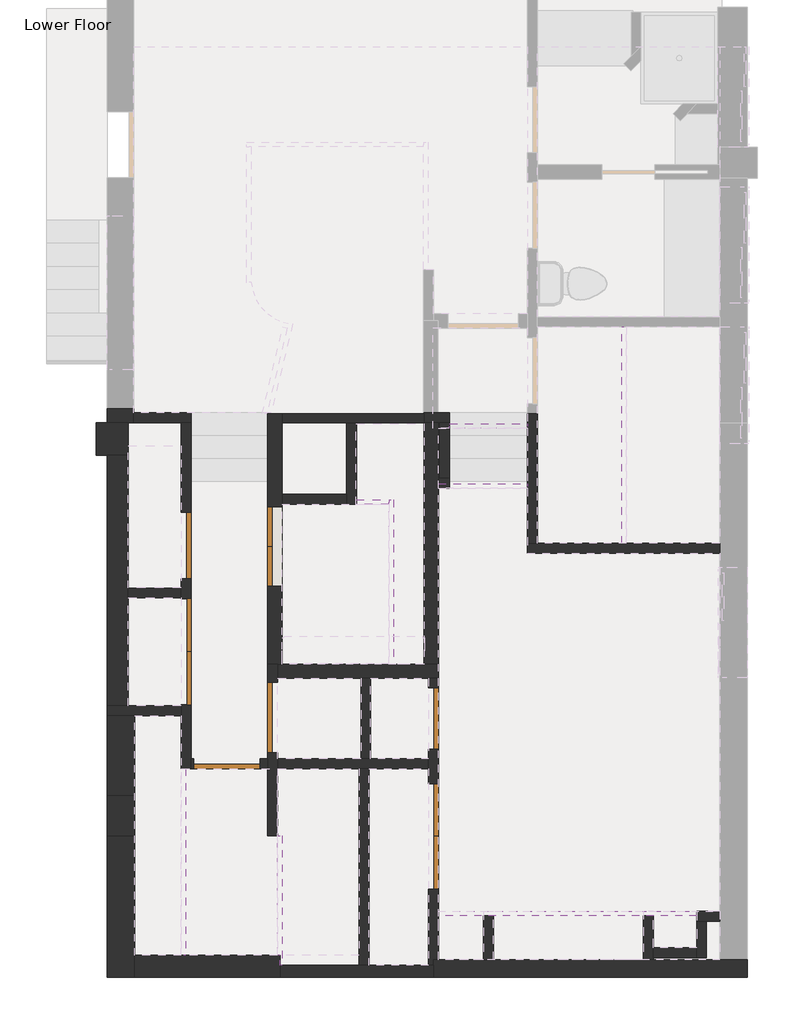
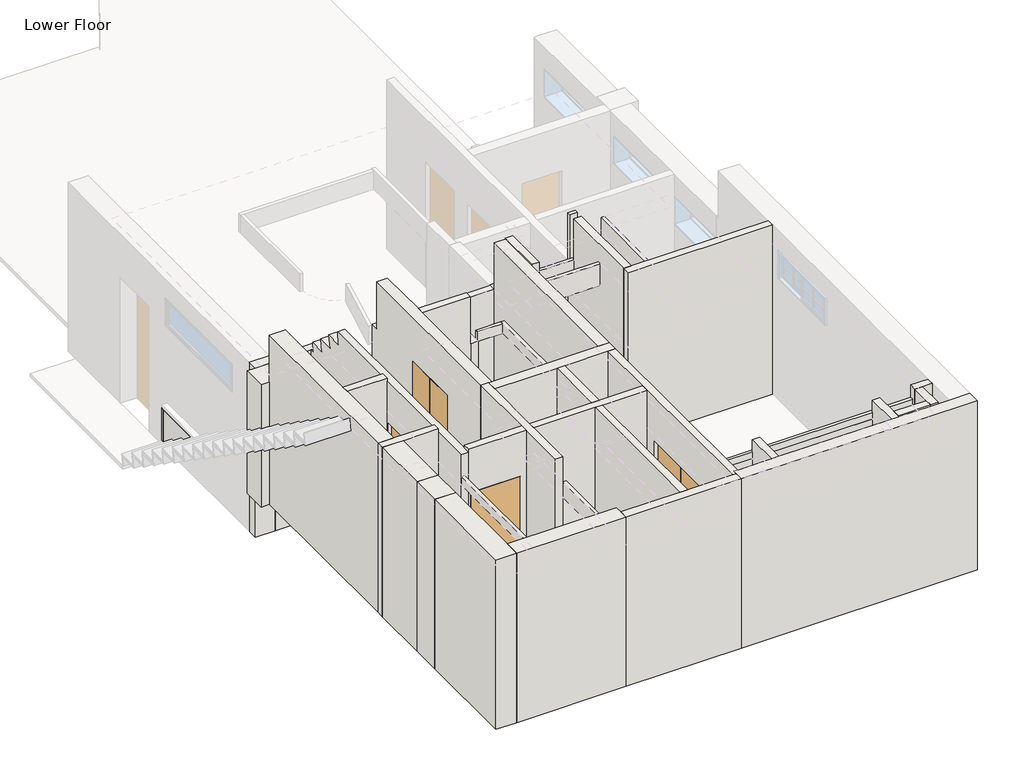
# One storey, part 1 of 4: 46 walls, 7 doors.
"""IFC4 building model written with IfcOpenShell, lengths in millimetres."""

from ifc_helpers import new_model, si_unit, frame, origin, place, context, project, spatial, polyline, outline, extrude, faceted_brep, transform, mapped, element, save
from components import door_faf8bfec, door_f61abd0f, door_aa45f35f, door_ba797397, door_883b3292, door_12ea99da

model = new_model("IFC4")

# Units and contexts
model_context = context("Model", 3, world=origin())
ifc_project = project(units=[si_unit("LENGTHUNIT", "METRE", prefix="MILLI")], contexts=[model_context])

# Site, building, storey
site = spatial("IfcSite", under=ifc_project)
building = spatial("IfcBuilding", under=site)
storey = spatial("IfcBuildingStorey", under=building, Name="Lower Floor", Elevation=-2743.2)

# Doors
placement = place(None, origin())
door_shape = door_faf8bfec(model_context)
element("IfcDoor", 1, ObjectType="Planitar - Single Door_Flush Panel : 2'-4\" x 6'-8\"", at=placement, inside=storey, context=model_context, shape_type="MappedRepresentation", body=[
    mapped(door_shape, transform((-2349.5, 120.65, -1981.2), x_axis=(0.0, -1.0, 0.0), y_axis=(1.0, 0.0, 0.0), z_axis=(0.0, 0.0, 1.0))),
])
door_2_shape = door_f61abd0f(model_context)
element("IfcDoor", 2, ObjectType="Planitar - Single Door_Flush Panel : 2'-6\" x 6'-8\"", at=placement, inside=storey, context=model_context, shape_type="MappedRepresentation", body=[
    mapped(door_2_shape, transform((-4733.528125, -400.05, -1981.2), x_axis=(1.0, 0.0, 0.0), y_axis=(0.0, 1.0, 0.0), z_axis=(0.0, 0.0, 1.0))),
])
door_3_shape = door_aa45f35f(model_context)
element("IfcDoor", 3, ObjectType="Planitar - Single Door_Flush Panel : 2'-6\" x 6'-8\" 45", at=placement, inside=storey, context=model_context, shape_type="MappedRepresentation", body=[
    mapped(door_3_shape, transform((-5200.65, 2115.34375, -1981.2), x_axis=(0.0, -1.0, 0.0), y_axis=(1.0, 0.0, 0.0), z_axis=(0.0, 0.0, 1.0))),
])
door_4_shape = door_ba797397(model_context)
element("IfcDoor", 4, ObjectType="Planitar - Single Door_Flush Panel : 2'-8\" x 6'-8\"", at=placement, inside=storey, context=model_context, shape_type="MappedRepresentation", body=[
    mapped(door_4_shape, transform((-4203.7, 133.35, -1981.2), x_axis=(0.0, -1.0, 0.0), y_axis=(1.0, 0.0, 0.0), z_axis=(0.0, 0.0, 1.0))),
])
door_5_shape = door_883b3292(model_context)
element("IfcDoor", 5, ObjectType="Planitar - Double Door_Flush Panel : 3'-0\" x 6'-8\"", at=placement, inside=storey, context=model_context, shape_type="MappedRepresentation", body=[
    mapped(door_5_shape, transform((-4178.3, 2105.025, -1981.2), x_axis=(0.0, 1.0, 0.0), y_axis=(-1.0, 0.0, 0.0), z_axis=(0.0, 0.0, 1.0))),
])
door_6_shape = door_12ea99da(model_context)
element("IfcDoor", 6, ObjectType="Planitar - Double Door_Flush Panel : 4'-0\" x 6'-8\"", at=placement, inside=storey, context=model_context, shape_type="MappedRepresentation", body=[
    mapped(door_6_shape, transform((-2349.5, -1238.25, -1981.2), x_axis=(0.0, -1.0, 0.0), y_axis=(1.0, 0.0, 0.0), z_axis=(0.0, 0.0, 1.0))),
])
element("IfcDoor", 7, ObjectType="Planitar - Double Door_Flush Panel : 4'-0\" x 6'-8\"", at=placement, inside=storey, context=model_context, shape_type="MappedRepresentation", body=[
    mapped(door_6_shape, transform((-5200.65, 892.175, -1981.2), x_axis=(0.0, -1.0, 0.0), y_axis=(1.0, 0.0, 0.0), z_axis=(0.0, 0.0, 1.0))),
])

# Walls
element("IfcWall", 8, ObjectType="Planitar - Generic 1' - 1/2\"", at=placement, inside=storey, context=model_context, shape_type="SweptSolid", body=[
    extrude(outline(polyline([(-6115.05, -768.35), (-6115.05, 152.4), (-5797.55, 152.4), (-5797.55, -768.35), (-6115.05, -768.35)])), frame((0.0, 0.0, -1981.2), z_axis=(0.0, 0.0, 1.0), x_axis=(1.0, 0.0, 0.0)), (0.0, 0.0, 1.0), 2743.2),
])
element("IfcWall", 9, ObjectType="Planitar - Generic 10\"", at=placement, inside=storey, context=model_context, shape_type="Brep", body=[
    faceted_brep([(-5797.55, -2863.85, -1981.2), (-4121.15, -2863.85, -1981.2), (-4121.15, -2863.85, 762.0), (-5797.55, -2863.85, 762.0), (-5797.55, -2609.85, -1981.2), (-5797.55, -2609.85, 762.0), (-4121.15, -2609.85, 762.0), (-4121.15, -2609.85, 355.6), (-4121.15, -2609.85, 101.6), (-4121.15, -2609.85, -1981.2), (-4121.15, -2724.15, -1981.2), (-4121.15, -2724.15, 762.0)], [[[0, 1, 2, 3]], [[4, 5, 6, 7, 8, 9]], [[1, 0, 4, 9, 10]], [[3, 2, 11, 6, 5]], [[0, 3, 5, 4]], [[1, 10, 9, 8, 7, 6, 11, 2]]]),
])
element("IfcWall", 10, ObjectType="Planitar - Generic 5 1/2\"", at=placement, inside=storey, context=model_context, shape_type="Brep", body=[
    faceted_brep([(-4121.15, -2863.85, 762.0), (-4121.15, -2863.85, -1981.2), (-2349.5, -2863.85, -1981.2), (-2349.5, -2863.85, 762.0), (-4121.15, -2724.15, -1981.2), (-4121.15, -2724.15, 101.6), (-4121.15, -2724.15, 355.6), (-4121.15, -2724.15, 762.0), (-3206.75, -2724.15, 762.0), (-3092.45, -2724.15, 762.0), (-2406.65, -2724.15, 762.0), (-2349.5, -2724.15, 762.0), (-2349.5, -2724.15, -1981.2), (-2406.65, -2724.15, -1981.2), (-3092.45, -2724.15, -1981.2), (-3206.75, -2724.15, -1981.2)], [[[0, 1, 2, 3]], [[4, 5, 6, 7, 8, 9, 10, 11, 12, 13, 14, 15]], [[2, 1, 4, 15, 14, 13, 12]], [[3, 2, 12, 11]], [[0, 3, 11, 10, 9, 8, 7]], [[0, 7, 6, 5, 4, 1]]]),
])
element("IfcWall", 11, ObjectType="Planitar - Generic 8\"", at=placement, inside=storey, context=model_context, shape_type="Brep", body=[
    faceted_brep([(-2349.5, -2863.85, -1981.2), (1270.0, -2863.85, -1981.2), (1270.0, -2863.85, 762.0), (-2349.5, -2863.85, 762.0), (-2349.5, -2660.65, -1981.2), (-2349.5, -2660.65, 762.0), (-2292.35, -2660.65, 762.0), (-1771.65, -2660.65, 762.0), (-1657.35, -2660.65, 762.0), (69.85, -2660.65, 762.0), (184.15, -2660.65, 762.0), (952.5, -2660.65, 762.0), (1270.0, -2660.65, 762.0), (1270.0, -2660.65, -1981.2), (952.5, -2660.65, -1981.2), (184.15, -2660.65, -1981.2), (69.85, -2660.65, -1981.2), (-1657.35, -2660.65, -1981.2), (-1771.65, -2660.65, -1981.2), (-2292.35, -2660.65, -1981.2), (-2349.5, -2724.15, -1981.2), (-2349.5, -2724.15, 762.0)], [[[0, 1, 2, 3]], [[4, 5, 6, 7, 8, 9, 10, 11, 12, 13, 14, 15, 16, 17, 18, 19]], [[1, 0, 20, 4, 19, 18, 17, 16, 15, 14, 13]], [[3, 2, 12, 11, 10, 9, 8, 7, 6, 5, 21]], [[0, 3, 21, 5, 4, 20]], [[2, 1, 13, 12]]]),
])
element("IfcWall", 12, ObjectType="Planitar - Generic 1' - 2 1/2\"", at=placement, inside=storey, context=model_context, shape_type="Brep", body=[
    faceted_brep([(-6242.05, 3530.6, -1981.2), (-6242.05, 3155.95, -1981.2), (-6242.05, 3155.95, 0.0), (-6242.05, 3530.6, 0.0), (-5873.75, 3530.6, -1981.2), (-5873.75, 3530.6, 0.0), (-5873.75, 3155.95, 0.0), (-5873.75, 3155.95, -1981.2), (-6115.05, 3155.95, -1981.2), (-5886.45, 3155.95, 0.0), (-6115.05, 3530.6, 0.0)], [[[0, 1, 2, 3]], [[4, 5, 6, 7]], [[1, 0, 4, 7, 8]], [[2, 1, 8, 7, 6, 9]], [[3, 2, 9, 6, 5, 10]], [[0, 3, 10, 5, 4]]]),
])
element("IfcWall", 13, ObjectType="Planitar - Generic 4 1/2\"", at=placement, inside=storey, context=model_context, shape_type="Brep", body=[
    faceted_brep([(-5810.25, 3530.6, 0.0), (-5810.25, 3530.6, -2743.2), (-5143.5, 3530.6, -2743.2), (-5143.5, 3530.6, -2602.7), (-5143.5, 3530.6, 0.0), (-5257.8, 3530.6, 0.0), (-5810.25, 3644.9, -2743.2), (-5810.25, 3644.9, 0.0), (-5143.5, 3644.9, 0.0), (-5143.5, 3644.9, -2743.2)], [[[0, 1, 2, 3, 4, 5]], [[6, 7, 8, 9]], [[2, 1, 6, 9]], [[0, 5, 4, 8, 7]], [[4, 3, 2, 9, 8]], [[0, 7, 6, 1]]]),
])
element("IfcWall", 14, ObjectType="Planitar - Generic 4 1/2\"", at=placement, inside=storey, context=model_context, shape_type="Brep", body=[
    faceted_brep([(-5257.8, -457.2, 711.2), (-5257.8, 2831.8761537, 711.2), (-5257.8, 2806.9811406, 521.5), (-5257.8, 3064.7216202, 521.5), (-5257.8, 3027.1144406, 331.0), (-5257.8, 3272.2478406, 331.0), (-5257.8, 3247.2478406, 140.5), (-5257.8, 3492.3811406, 140.5), (-5257.8, 3473.9428204, 0.0), (-5257.8, 3530.6, 0.0), (-5257.8, 3530.6, -1981.2), (-5257.8, 3530.6, -2602.7), (-5257.8, 3348.3993869, -2602.7), (-5257.8, 3379.9610667, -2362.2), (-5257.8, 3090.0221333, -2362.2), (-5257.8, 3115.0221333, -2171.7), (-5257.8, 2825.0832, -2171.7), (-5257.8, 2850.0832, -1981.2), (-5257.8, 2496.34375, -1981.2), (-5257.8, 2496.34375, 50.8), (-5257.8, 1734.34375, 50.8), (-5257.8, 1734.34375, -1981.2), (-5257.8, 1625.6, -1981.2), (-5257.8, 1511.3, -1981.2), (-5257.8, 1501.775, -1981.2), (-5257.8, 1501.775, 50.8), (-5257.8, 282.575, 50.8), (-5257.8, 282.575, -1981.2), (-5257.8, 266.7, -1981.2), (-5257.8, 152.4, -1981.2), (-5257.8, -457.2, -1981.2), (-5257.8, -457.2, 228.6), (-5257.8, -457.2, 355.6), (-5143.5, 2831.8761537, 711.2), (-5143.5, -457.2, 711.2), (-5143.5, -457.2, -1981.2), (-5143.5, -342.9, -1981.2), (-5143.5, 282.575, -1981.2), (-5143.5, 282.575, 50.8), (-5143.5, 1501.775, 50.8), (-5143.5, 1501.775, -1981.2), (-5143.5, 1734.34375, -1981.2), (-5143.5, 1734.34375, 50.8), (-5143.5, 2496.34375, 50.8), (-5143.5, 2496.34375, -1981.2), (-5143.5, 2850.0832, -1981.2), (-5143.5, 2825.0832, -2171.7), (-5143.5, 3115.0221333, -2171.7), (-5143.5, 3090.0221333, -2362.2), (-5143.5, 3379.9610667, -2362.2), (-5143.5, 3348.3993869, -2602.7), (-5143.5, 3530.6, -2602.7), (-5143.5, 3530.6, -1981.2), (-5143.5, 3530.6, 0.0), (-5143.5, 3473.9428204, 0.0), (-5143.5, 3492.3811406, 140.5), (-5143.5, 3247.2478406, 140.5), (-5143.5, 3272.2478406, 331.0), (-5143.5, 3027.1144406, 331.0), (-5143.5, 3064.7216202, 521.5), (-5143.5, 2806.9811406, 521.5)], [[[0, 1, 2, 3, 4, 5, 6, 7, 8, 9, 10, 11, 12, 13, 14, 15, 16, 17, 18, 19, 20, 21, 22, 23, 24, 25, 26, 27, 28, 29, 30, 31, 32]], [[33, 34, 35, 36, 37, 38, 39, 40, 41, 42, 43, 44, 45, 46, 47, 48, 49, 50, 51, 52, 53, 54, 55, 56, 57, 58, 59, 60]], [[35, 30, 29, 28, 27, 37, 36]], [[17, 45, 44, 18]], [[21, 41, 40, 24, 23, 22]], [[1, 0, 34, 33]], [[12, 11, 51, 50]], [[13, 12, 50, 49]], [[14, 13, 49, 48]], [[15, 14, 48, 47]], [[16, 15, 47, 46]], [[17, 16, 46, 45]], [[10, 9, 53, 52, 51, 11]], [[20, 42, 41, 21]], [[42, 20, 19, 43]], [[43, 19, 18, 44]], [[26, 38, 37, 27]], [[38, 26, 25, 39]], [[39, 25, 24, 40]], [[30, 35, 34, 0, 32, 31]], [[2, 1, 33, 60]], [[3, 2, 60, 59]], [[4, 3, 59, 58]], [[5, 4, 58, 57]], [[6, 5, 57, 56]], [[7, 6, 56, 55]], [[8, 7, 55, 54]], [[9, 8, 54, 53]]]),
])
element("IfcWall", 15, ObjectType="Planitar - Generic 4 1/2\"", at=placement, inside=storey, context=model_context, shape_type="Brep", body=[
    faceted_brep([(-5143.5, -342.9, 762.0), (-4260.85, -342.9, 762.0), (-4260.85, -342.9, -1981.2), (-4352.528125, -342.9, -1981.2), (-4352.528125, -342.9, 50.8), (-5114.528125, -342.9, 50.8), (-5114.528125, -342.9, -1981.2), (-5143.5, -342.9, -1981.2), (-4260.85, -457.2, 762.0), (-5143.5, -457.2, 762.0), (-5143.5, -457.2, 711.2), (-5143.5, -457.2, -1981.2), (-5114.528125, -457.2, -1981.2), (-5114.528125, -457.2, 50.8), (-4352.528125, -457.2, 50.8), (-4352.528125, -457.2, -1981.2), (-4260.85, -457.2, -1981.2)], [[[0, 1, 2, 3, 4, 5, 6, 7]], [[8, 9, 10, 11, 12, 13, 14, 15, 16]], [[11, 7, 6, 12]], [[2, 16, 15, 3]], [[1, 0, 9, 8]], [[2, 1, 8, 16]], [[14, 4, 3, 15]], [[4, 14, 13, 5]], [[5, 13, 12, 6]], [[7, 11, 10, 9, 0]]]),
])
element("IfcWall", 16, ObjectType="Planitar - Generic 4 1/2\"", at=placement, inside=storey, context=model_context, shape_type="Brep", body=[
    faceted_brep([(-4146.55, -457.2, -1981.2), (-3206.75, -457.2, -1981.2), (-3092.45, -457.2, -1981.2), (-2406.65, -457.2, -1981.2), (-2406.65, -457.2, 762.0), (-3092.45, -457.2, 762.0), (-3206.75, -457.2, 762.0), (-4146.55, -457.2, 762.0), (-4146.55, -342.9, -1981.2), (-4146.55, -342.9, 762.0), (-3187.7, -342.9, 762.0), (-3073.4, -342.9, 762.0), (-2406.65, -342.9, 762.0), (-2406.65, -342.9, -1981.2), (-3073.4, -342.9, -1981.2), (-3187.7, -342.9, -1981.2)], [[[0, 1, 2, 3, 4, 5, 6, 7]], [[8, 9, 10, 11, 12, 13, 14, 15]], [[3, 2, 1, 0, 8, 15, 14, 13]], [[7, 6, 5, 4, 12, 11, 10, 9]], [[0, 7, 9, 8]], [[4, 3, 13, 12]]]),
])
element("IfcWall", 17, ObjectType="Planitar - Generic 4 1/2\"", at=placement, inside=storey, context=model_context, shape_type="Brep", body=[
    faceted_brep([(-2406.65, -2724.15, 762.0), (-2406.65, -457.2, 762.0), (-2406.65, -342.9, 762.0), (-2406.65, 584.2, 762.0), (-2406.65, 584.2, -1981.2), (-2406.65, 476.25, -1981.2), (-2406.65, 476.25, 50.8), (-2406.65, -234.95, 50.8), (-2406.65, -234.95, -1981.2), (-2406.65, -342.9, -1981.2), (-2406.65, -457.2, -1981.2), (-2406.65, -628.65, -1981.2), (-2406.65, -628.65, 50.8), (-2406.65, -1847.85, 50.8), (-2406.65, -1847.85, -1981.2), (-2406.65, -2724.15, -1981.2), (-2292.35, -2660.65, 762.0), (-2292.35, -2660.65, -1981.2), (-2292.35, -1847.85, -1981.2), (-2292.35, -1847.85, 50.8), (-2292.35, -628.65, 50.8), (-2292.35, -628.65, -1981.2), (-2292.35, -234.95, -1981.2), (-2292.35, -234.95, 50.8), (-2292.35, 476.25, 50.8), (-2292.35, 476.25, -1981.2), (-2292.35, 584.2, -1981.2), (-2292.35, 584.2, 762.0), (-2349.5, -2660.65, -1981.2), (-2349.5, -2724.15, -1981.2), (-2349.5, -2724.15, 762.0), (-2349.5, -2660.65, 762.0)], [[[0, 1, 2, 3, 4, 5, 6, 7, 8, 9, 10, 11, 12, 13, 14, 15]], [[16, 17, 18, 19, 20, 21, 22, 23, 24, 25, 26, 27]], [[17, 28, 29, 15, 14, 18]], [[4, 26, 25, 5]], [[8, 22, 21, 11, 10, 9]], [[3, 2, 1, 0, 30, 31, 16, 27]], [[0, 15, 29, 30]], [[29, 28, 31, 30]], [[17, 16, 31, 28]], [[4, 3, 27, 26]], [[7, 23, 22, 8]], [[23, 7, 6, 24]], [[24, 6, 5, 25]], [[13, 19, 18, 14]], [[19, 13, 12, 20]], [[20, 12, 11, 21]]]),
])
element("IfcWall", 18, ObjectType="Planitar - Generic 4 1/2\"", at=placement, inside=storey, context=model_context, shape_type="SweptSolid", body=[
    extrude(outline(polyline([(-3092.45, -457.2), (-3092.45, -2724.15), (-3206.75, -2724.15), (-3206.75, -457.2), (-3092.45, -457.2)])), frame((0.0, 0.0, -1981.2), z_axis=(0.0, 0.0, 1.0), x_axis=(1.0, 0.0, 0.0)), (0.0, 0.0, 1.0), 2743.2),
])
element("IfcWall", 19, ObjectType="Planitar - Generic 4 1/2\"", at=placement, inside=storey, context=model_context, shape_type="Brep", body=[
    faceted_brep([(-4146.55, 749.3, 762.0), (-4146.55, 584.2, 762.0), (-4146.55, -342.9, 762.0), (-4146.55, -457.2, 762.0), (-4146.55, -1231.9, 762.0), (-4146.55, -1231.9, -1981.2), (-4146.55, -457.2, -1981.2), (-4146.55, -342.9, -1981.2), (-4146.55, -273.05, -1981.2), (-4146.55, -273.05, 50.8), (-4146.55, 539.75, 50.8), (-4146.55, 539.75, -1981.2), (-4146.55, 584.2, -1981.2), (-4146.55, 749.3, -1981.2), (-4260.85, -1231.9, 762.0), (-4260.85, -457.2, 762.0), (-4260.85, -342.9, 762.0), (-4260.85, 749.3, 762.0), (-4260.85, 749.3, -1981.2), (-4260.85, 584.2, -1981.2), (-4260.85, 539.75, -1981.2), (-4260.85, 539.75, 50.8), (-4260.85, -273.05, 50.8), (-4260.85, -273.05, -1981.2), (-4260.85, -342.9, -1981.2), (-4260.85, -457.2, -1981.2), (-4260.85, -1231.9, -1981.2)], [[[0, 1, 2, 3, 4, 5, 6, 7, 8, 9, 10, 11, 12, 13]], [[14, 15, 16, 17, 18, 19, 20, 21, 22, 23, 24, 25, 26]], [[5, 26, 25, 24, 23, 8, 7, 6]], [[18, 13, 12, 11, 20, 19]], [[4, 3, 2, 1, 0, 17, 16, 15, 14]], [[5, 4, 14, 26]], [[0, 13, 18, 17]], [[22, 9, 8, 23]], [[9, 22, 21, 10]], [[10, 21, 20, 11]]]),
])
element("IfcWall", 20, ObjectType="Planitar - Generic 4 1/2\"", at=placement, inside=storey, context=model_context, shape_type="SweptSolid", body=[
    extrude(outline(polyline([(-3187.7, -342.9), (-3187.7, 584.2), (-3073.4, 584.2), (-3073.4, -342.9), (-3187.7, -342.9)])), frame((0.0, 0.0, -1981.2), z_axis=(0.0, 0.0, 1.0), x_axis=(1.0, 0.0, 0.0)), (0.0, 0.0, 1.0), 2743.2),
])
element("IfcWall", 21, ObjectType="Planitar - Generic 6 1/2\"", at=placement, inside=storey, context=model_context, shape_type="Brep", body=[
    faceted_brep([(-4260.85, 584.2, -2133.6), (-2292.35, 584.2, -2133.6), (-2292.35, 584.2, -1981.2), (-2292.35, 584.2, 762.0), (-2406.65, 584.2, 762.0), (-3073.4, 584.2, 762.0), (-3187.7, 584.2, 762.0), (-4146.55, 584.2, 762.0), (-4146.55, 584.2, -1981.2), (-4260.85, 584.2, -1981.2), (-4260.85, 749.3, -2133.6), (-4260.85, 749.3, -1981.2), (-4146.55, 749.3, -1981.2), (-4146.55, 749.3, 762.0), (-4095.75, 749.3, 762.0), (-2457.45, 749.3, 762.0), (-2292.35, 749.3, 762.0), (-2292.35, 749.3, -2133.6), (-2457.45, 749.3, -2133.6), (-4095.75, 749.3, -2133.6)], [[[0, 1, 2, 3, 4, 5, 6, 7, 8, 9]], [[10, 11, 12, 13, 14, 15, 16, 17, 18, 19]], [[1, 0, 10, 19, 18, 17]], [[7, 6, 5, 4, 3, 16, 15, 14, 13]], [[1, 17, 16, 3, 2]], [[8, 12, 11, 9]], [[0, 9, 11, 10]], [[8, 7, 13, 12]]]),
])
element("IfcWall", 22, ObjectType="Planitar - Generic 6 1/2\"", at=placement, inside=storey, context=model_context, shape_type="Brep", body=[
    faceted_brep([(-2292.35, 749.3, 762.0), (-2292.35, 749.3, -2133.6), (-2292.35, 3530.6, -2133.6), (-2292.35, 3530.6, 0.0), (-2292.35, 3517.9, 0.0), (-2292.35, 3517.9, 762.0), (-2457.45, 749.3, -2133.6), (-2457.45, 749.3, 762.0), (-2457.45, 3517.9, 762.0), (-2457.45, 3517.9, 0.0), (-2457.45, 3530.6, 0.0), (-2457.45, 3530.6, -2133.6), (-2413.0, 3530.6, -2133.6), (-2355.85, 3517.9, 0.0)], [[[0, 1, 2, 3, 4, 5]], [[6, 7, 8, 9, 10, 11]], [[2, 1, 6, 11, 12]], [[0, 5, 8, 7]], [[9, 13, 4, 3, 10]], [[3, 2, 12, 11, 10]], [[4, 13, 9, 8, 5]], [[0, 7, 6, 1]]]),
])
element("IfcWall", 23, ObjectType="Planitar - Generic 6 1/2\"", at=placement, inside=storey, context=model_context, shape_type="Brep", body=[
    faceted_brep([(-4260.85, 2849.1332, -2133.6), (-4260.85, 749.3, -2133.6), (-4260.85, 749.3, -1981.2), (-4260.85, 749.3, 762.0), (-4260.85, 3517.9, 762.0), (-4260.85, 3517.9, 0.0), (-4260.85, 3632.2, 0.0), (-4260.85, 3632.2, -2602.7), (-4260.85, 3367.4493869, -2602.7), (-4260.85, 3392.4493869, -2412.2), (-4260.85, 3102.5104535, -2412.2), (-4260.85, 3127.5104535, -2221.7), (-4260.85, 2837.5715202, -2221.7), (-4260.85, 2562.225, -1981.2), (-4260.85, 2562.225, 50.8), (-4260.85, 1647.825, 50.8), (-4260.85, 1647.825, -1981.2), (-4095.75, 749.3, -2133.6), (-4095.75, 2590.8, -2133.6), (-4095.75, 2705.1, -2133.6), (-4095.75, 2849.1332, -2133.6), (-4095.75, 2837.5715202, -2221.7), (-4095.75, 3127.5104535, -2221.7), (-4095.75, 3102.5104535, -2412.2), (-4095.75, 3392.4493869, -2412.2), (-4095.75, 3367.4493869, -2602.7), (-4095.75, 3632.2, -2602.7), (-4095.75, 3632.2, 0.0), (-4095.75, 3530.6, 0.0), (-4095.75, 3517.9, 0.0), (-4095.75, 3517.9, 762.0), (-4095.75, 2705.1, 762.0), (-4095.75, 2590.8, 762.0), (-4095.75, 749.3, 762.0), (-4095.75, 2562.225, 50.8), (-4095.75, 2562.225, -1981.2), (-4095.75, 1647.825, -1981.2), (-4095.75, 1647.825, 50.8), (-4146.55, 749.3, 762.0)], [[[0, 1, 2, 3, 4, 5, 6, 7, 8, 9, 10, 11, 12], [13, 14, 15, 16]], [[17, 18, 19, 20, 21, 22, 23, 24, 25, 26, 27, 28, 29, 30, 31, 32, 33], [34, 35, 36, 37]], [[3, 2, 1, 17, 33, 38]], [[5, 4, 30, 29]], [[1, 0, 20, 19, 18, 17]], [[4, 3, 38, 33, 32, 31, 30]], [[29, 28, 27, 6, 5]], [[8, 7, 26, 25]], [[9, 8, 25, 24]], [[10, 9, 24, 23]], [[11, 10, 23, 22]], [[12, 11, 22, 21]], [[0, 12, 21, 20]], [[6, 27, 26, 7]], [[13, 35, 34, 14]], [[14, 34, 37, 15]], [[15, 37, 36, 16]], [[35, 13, 16, 36]]]),
])
element("IfcWall", 24, ObjectType="Planitar - Generic 4\"", at=placement, inside=storey, context=model_context, shape_type="Brep", body=[
    faceted_brep([(-4095.75, 3530.6, -2743.2), (-2374.9, 3530.6, -2743.2), (-2374.9, 3530.6, -2133.6), (-2413.0, 3530.6, -2133.6), (-2457.45, 3530.6, -2133.6), (-2457.45, 3530.6, 0.0), (-3238.5, 3530.6, 0.0), (-3352.8, 3530.6, 0.0), (-4095.75, 3530.6, 0.0), (-4095.75, 3632.2, -2743.2), (-4095.75, 3632.2, -2602.7), (-4095.75, 3632.2, 0.0), (-2470.15, 3632.2, 0.0), (-2457.45, 3632.2, 0.0), (-2457.45, 3632.2, -2133.6), (-2374.9, 3632.2, -2133.6), (-2374.9, 3632.2, -2743.2)], [[[0, 1, 2, 3, 4, 5, 6, 7, 8]], [[9, 10, 11, 12, 13, 14, 15, 16]], [[1, 0, 9, 16]], [[8, 7, 6, 5, 13, 12, 11]], [[2, 1, 16, 15]], [[14, 4, 3, 2, 15]], [[5, 4, 14, 13]], [[0, 8, 11, 10, 9]]]),
])
element("IfcWall", 25, ObjectType="Planitar - Generic 4 1/2\"", at=placement, inside=storey, context=model_context, shape_type="SweptSolid", body=[
    extrude(outline(polyline([(-2165.35, 2774.95), (-2292.35, 2774.95), (-2292.35, 2889.25), (-2165.35, 2889.25), (-2165.35, 2774.95)])), frame((0.0, 0.0, -1981.2), z_axis=(0.0, 0.0, 1.0), x_axis=(1.0, 0.0, 0.0)), (0.0, 0.0, 1.0), 2451.1),
])
element("IfcWall", 26, ObjectType="Planitar - Generic 4 1/2\"", at=placement, inside=storey, context=model_context, shape_type="Brep", body=[
    faceted_brep([(-2165.35, 2832.1, -1981.2), (-2165.35, 2850.0832, -1981.2), (-2165.35, 2818.5215202, -2221.7), (-2165.35, 3108.4604535, -2221.7), (-2165.35, 3083.4604535, -2412.2), (-2165.35, 3373.3993869, -2412.2), (-2165.35, 3348.3993869, -2602.7), (-2165.35, 3530.6, -2602.7), (-2165.35, 3530.6, -1981.2), (-2165.35, 3530.6, 0.0), (-2165.35, 3530.6, 762.0), (-2165.35, 2832.1, 762.0), (-2279.65, 2832.1, -1981.2), (-2279.65, 2832.1, 762.0), (-2279.65, 3530.6, 762.0), (-2279.65, 3530.6, -1981.2), (-2279.65, 3530.6, -2602.7), (-2279.65, 3348.3993869, -2602.7), (-2279.65, 3373.3993869, -2412.2), (-2279.65, 3083.4604535, -2412.2), (-2279.65, 3108.4604535, -2221.7), (-2279.65, 2818.5215202, -2221.7), (-2279.65, 2850.0832, -1981.2)], [[[0, 1, 2, 3, 4, 5, 6, 7, 8, 9, 10, 11]], [[12, 13, 14, 15, 16, 17, 18, 19, 20, 21, 22]], [[1, 0, 12, 22]], [[11, 10, 14, 13]], [[0, 11, 13, 12]], [[2, 1, 22, 21]], [[3, 2, 21, 20]], [[4, 3, 20, 19]], [[5, 4, 19, 18]], [[6, 5, 18, 17]], [[7, 6, 17, 16]], [[8, 7, 16, 15, 14, 10, 9]]]),
])
element("IfcWall", 27, ObjectType="Planitar - Generic 4 1/2\"", at=placement, inside=storey, context=model_context, shape_type="Brep", body=[
    faceted_brep([(-2165.35, 3644.9, -2743.2), (-2298.7, 3644.9, -2743.2), (-2413.0, 3644.9, -2743.2), (-2413.0, 3644.9, -2133.6), (-2457.45, 3644.9, -2133.6), (-2457.45, 3644.9, 0.0), (-2298.7, 3644.9, 0.0), (-2165.35, 3644.9, 0.0), (-2165.35, 3530.6, -2743.2), (-2165.35, 3530.6, -2602.7), (-2165.35, 3530.6, 0.0), (-2292.35, 3530.6, 0.0), (-2457.45, 3530.6, 0.0), (-2457.45, 3530.6, -2133.6), (-2413.0, 3530.6, -2133.6), (-2413.0, 3530.6, -2743.2), (-2457.45, 3632.2, 0.0), (-2457.45, 3632.2, -2133.6)], [[[0, 1, 2, 3, 4, 5, 6, 7]], [[8, 9, 10, 11, 12, 13, 14, 15]], [[2, 1, 0, 8, 15]], [[7, 6, 5, 16, 12, 11, 10]], [[0, 7, 10, 9, 8]], [[3, 2, 15, 14]], [[13, 17, 4, 3, 14]], [[5, 4, 17, 13, 12, 16]]]),
])
element("IfcWall", 28, ObjectType="Planitar - Generic 4 1/2\"", at=placement, inside=storey, context=model_context, shape_type="Brep", body=[
    faceted_brep([(-3352.8, 3530.6, -2133.6), (-3352.8, 2705.1, -2133.6), (-3352.8, 2590.8, -2133.6), (-3352.8, 2590.8, 0.0), (-3352.8, 2705.1, 0.0), (-3352.8, 3530.6, 0.0), (-3238.5, 3530.6, -2133.6), (-3238.5, 3530.6, 0.0), (-3238.5, 2590.8, 0.0), (-3238.5, 2590.8, -2133.6), (-3244.85, 2590.8, 0.0)], [[[0, 1, 2, 3, 4, 5]], [[6, 7, 8, 9]], [[2, 1, 0, 6, 9]], [[5, 4, 3, 10, 8, 7]], [[0, 5, 7, 6]], [[3, 2, 9, 8, 10]]]),
])
element("IfcWall", 29, ObjectType="Planitar - Generic 4 1/2\"", at=placement, inside=storey, context=model_context, shape_type="SweptSolid", body=[
    extrude(outline(polyline([(-2133.6, -3352.8), (0.0, -3352.8), (0.0, -3359.15), (762.0, -3359.15), (762.0, -4095.75), (-2133.6, -4095.75), (-2133.6, -3352.8)])), frame((0.0, 2590.8, 0.0), z_axis=(0.0, 1.0, 0.0), x_axis=(0.0, 0.0, 1.0)), (0.0, 0.0, 1.0), 114.3),
])
element("IfcWall", 30, ObjectType="Planitar - Generic 4 1/2\"", at=placement, inside=storey, context=model_context, shape_type="SweptSolid", body=[
    extrude(outline(polyline([(-5257.8, 1511.3), (-5873.75, 1511.3), (-5873.75, 1625.6), (-5257.8, 1625.6), (-5257.8, 1511.3)])), frame((0.0, 0.0, -1981.2), z_axis=(0.0, 0.0, 1.0), x_axis=(1.0, 0.0, 0.0)), (0.0, 0.0, 1.0), 2743.2),
])
element("IfcWall", 31, ObjectType="Planitar - Generic 4 1/2\"", at=placement, inside=storey, context=model_context, shape_type="Brep", body=[
    faceted_brep([(-6115.05, 152.4, -1981.2), (-5797.55, 152.4, -1981.2), (-5257.8, 152.4, -1981.2), (-5257.8, 152.4, 762.0), (-5797.55, 152.4, 762.0), (-6115.05, 152.4, 762.0), (-6115.05, 266.7, -1981.2), (-6115.05, 266.7, 762.0), (-5873.75, 266.7, 762.0), (-5257.8, 266.7, 762.0), (-5257.8, 266.7, -1981.2), (-5873.75, 266.7, -1981.2)], [[[0, 1, 2, 3, 4, 5]], [[6, 7, 8, 9, 10, 11]], [[2, 1, 0, 6, 11, 10]], [[5, 4, 3, 9, 8, 7]], [[0, 5, 7, 6]], [[3, 2, 10, 9]]]),
])
element("IfcWall", 32, ObjectType="Planitar - Generic 4 1/2\"", at=placement, inside=storey, context=model_context, shape_type="SweptSolid", body=[
    extrude(outline(polyline([(-1657.35, -2152.65), (-1657.35, -2660.65), (-1771.65, -2660.65), (-1771.65, -2152.65), (-1657.35, -2152.65)])), frame((0.0, 0.0, -1981.2), z_axis=(0.0, 0.0, 1.0), x_axis=(1.0, 0.0, 0.0)), (0.0, 0.0, 1.0), 2743.2),
])
element("IfcWall", 33, ObjectType="Planitar - Generic 4 1/2\"", at=placement, inside=storey, context=model_context, shape_type="Brep", body=[
    faceted_brep([(952.5, -2101.85, -1981.2), (685.8, -2101.85, -1981.2), (685.8, -2101.85, 152.4), (685.8, -2101.85, 304.8), (685.8, -2101.85, 457.2), (685.8, -2101.85, 563.1898522), (685.8, -2101.85, 762.0), (952.5, -2101.85, 762.0), (952.5, -2216.15, -1981.2), (952.5, -2216.15, 762.0), (800.1, -2216.15, 762.0), (685.8, -2216.15, 762.0), (685.8, -2216.15, -1981.2), (800.1, -2216.15, -1981.2)], [[[0, 1, 2, 3, 4, 5, 6, 7]], [[8, 9, 10, 11, 12, 13]], [[1, 0, 8, 13, 12]], [[7, 6, 11, 10, 9]], [[0, 7, 9, 8]], [[1, 12, 11, 6, 5, 4, 3, 2]]]),
])
element("IfcWall", 34, ObjectType="Planitar - Generic 4 1/2\"", at=placement, inside=storey, context=model_context, shape_type="Brep", body=[
    faceted_brep([(685.8, -2216.15, 762.0), (685.8, -2216.15, -1981.2), (685.8, -2520.95, -1981.2), (685.8, -2635.25, -1981.2), (685.8, -2635.25, 762.0), (685.8, -2520.95, 762.0), (800.1, -2216.15, -1981.2), (800.1, -2216.15, 762.0), (800.1, -2635.25, 762.0), (800.1, -2635.25, -1981.2)], [[[0, 1, 2, 3, 4, 5]], [[6, 7, 8, 9]], [[3, 2, 1, 6, 9]], [[0, 5, 4, 8, 7]], [[4, 3, 9, 8]], [[0, 7, 6, 1]]]),
])
element("IfcWall", 35, ObjectType="Planitar - Generic 4 1/2\"", at=placement, inside=storey, context=model_context, shape_type="SweptSolid", body=[
    extrude(outline(polyline([(184.15, -2520.95), (685.8, -2520.95), (685.8, -2635.25), (184.15, -2635.25), (184.15, -2520.95)])), frame((0.0, 0.0, -1981.2), z_axis=(0.0, 0.0, 1.0), x_axis=(1.0, 0.0, 0.0)), (0.0, 0.0, 1.0), 2743.2),
])
element("IfcWall", 36, ObjectType="Planitar - Generic 4 1/2\"", at=placement, inside=storey, context=model_context, shape_type="Brep", body=[
    faceted_brep([(184.15, -2660.65, -1981.2), (184.15, -2635.25, -1981.2), (184.15, -2520.95, -1981.2), (184.15, -2152.65, -1981.2), (184.15, -2152.65, 762.0), (184.15, -2520.95, 762.0), (184.15, -2635.25, 762.0), (184.15, -2660.65, 762.0), (69.85, -2660.65, -1981.2), (69.85, -2660.65, 762.0), (69.85, -2152.65, 762.0), (69.85, -2152.65, -1981.2)], [[[0, 1, 2, 3, 4, 5, 6, 7]], [[8, 9, 10, 11]], [[3, 2, 1, 0, 8, 11]], [[7, 6, 5, 4, 10, 9]], [[0, 7, 9, 8]], [[4, 3, 11, 10]]]),
])
element("IfcWall", 37, ObjectType="Planitar - Generic 4 1/2\"", at=placement, inside=storey, context=model_context, shape_type="Brep", body=[
    faceted_brep([(952.5, 2139.95, 762.0), (952.5, 2139.95, -2743.2), (-1149.35, 2139.95, -2743.2), (-1263.65, 2139.95, -2743.2), (-1263.65, 2139.95, 762.0), (-1149.35, 2139.95, 762.0), (952.5, 2025.65, -2743.2), (952.5, 2025.65, -1981.2), (952.5, 2025.65, 762.0), (-1263.65, 2025.65, 762.0), (-1263.65, 2025.65, -2743.2)], [[[0, 1, 2, 3, 4, 5]], [[6, 7, 8, 9, 10]], [[3, 2, 1, 6, 10]], [[0, 5, 4, 9, 8]], [[4, 3, 10, 9]], [[0, 8, 7, 6, 1]]]),
])
element("IfcWall", 38, ObjectType="Planitar - Generic 4 1/2\"", at=placement, inside=storey, context=model_context, shape_type="Brep", body=[
    faceted_brep([(-1149.35, 2139.95, -2743.2), (-1149.35, 3632.2, -2743.2), (-1149.35, 3632.2, 0.0), (-1149.35, 3632.2, 762.0), (-1149.35, 3581.4, 762.0), (-1149.35, 3581.4, 0.0), (-1149.35, 3467.1, 0.0), (-1149.35, 3467.1, 762.0), (-1149.35, 2139.95, 762.0), (-1263.65, 3632.2, -2743.2), (-1263.65, 2139.95, -2743.2), (-1263.65, 2139.95, 762.0), (-1263.65, 3467.1, 762.0), (-1263.65, 3467.1, 0.0), (-1263.65, 3581.4, 0.0), (-1263.65, 3581.4, 762.0), (-1263.65, 3632.2, 762.0), (-1263.65, 3632.2, 0.0)], [[[0, 1, 2, 3, 4, 5, 6, 7, 8]], [[9, 10, 11, 12, 13, 14, 15, 16, 17]], [[1, 0, 10, 9]], [[3, 2, 1, 9, 17, 16]], [[3, 16, 15, 4]], [[11, 8, 7, 12]], [[0, 8, 11, 10]], [[6, 13, 12, 7]], [[14, 5, 4, 15]], [[13, 6, 5, 14]]]),
])
element("IfcWall", 39, ObjectType="Planitar - Generic 9 1/2\"", at=placement, inside=storey, context=model_context, shape_type="Brep", body=[
    faceted_brep([(-6115.05, 3155.95, 762.0), (-6115.05, 3155.95, -1981.2), (-6115.05, 266.7, -1981.2), (-6115.05, 266.7, 762.0), (-5873.75, 3155.95, -1981.2), (-5873.75, 3155.95, 0.0), (-5873.75, 3155.95, 762.0), (-5873.75, 1625.6, 762.0), (-5873.75, 1511.3, 762.0), (-5873.75, 266.7, 762.0), (-5873.75, 266.7, -1981.2), (-5873.75, 1511.3, -1981.2), (-5873.75, 1625.6, -1981.2), (-5886.45, 3155.95, 762.0)], [[[0, 1, 2, 3]], [[4, 5, 6, 7, 8, 9, 10, 11, 12]], [[2, 1, 4, 12, 11, 10]], [[0, 3, 9, 8, 7, 6, 13]], [[3, 2, 10, 9]], [[0, 13, 6, 5, 4, 1]]]),
])
element("IfcWall", 40, ObjectType="Planitar - Generic 1' - 0\"", at=placement, inside=storey, context=model_context, shape_type="Brep", body=[
    faceted_brep([(-6115.05, 3689.35, -2743.2), (-6115.05, 3530.6, -2743.2), (-6115.05, 3530.6, 0.0), (-6115.05, 3581.4, 0.0), (-6115.05, 3689.35, 0.0), (-5810.25, 3689.35, -2743.2), (-5810.25, 3689.35, 0.0), (-5810.25, 3644.9, 0.0), (-5810.25, 3530.6, 0.0), (-5810.25, 3530.6, -2743.2), (-5810.25, 3644.9, -2743.2), (-5873.75, 3530.6, 0.0)], [[[0, 1, 2, 3, 4]], [[5, 6, 7, 8, 9, 10]], [[1, 0, 5, 10, 9]], [[4, 3, 2, 11, 8, 7, 6]], [[0, 4, 6, 5]], [[1, 9, 8, 11, 2]]]),
])
element("IfcWall", 41, ObjectType="Planitar - Generic 1' - 1/2\"", at=placement, inside=storey, context=model_context, shape_type="SweptSolid", body=[
    extrude(outline(polyline([(-6115.05, -1238.25), (-6115.05, -768.35), (-5797.55, -768.35), (-5797.55, -1238.25), (-6115.05, -1238.25)])), frame((0.0, 0.0, -1981.2), z_axis=(0.0, 0.0, 1.0), x_axis=(1.0, 0.0, 0.0)), (0.0, 0.0, 1.0), 2743.2),
])
element("IfcWall", 42, ObjectType="Planitar - Generic 1' - 1/2\"", at=placement, inside=storey, context=model_context, shape_type="Brep", body=[
    faceted_brep([(-6115.05, -1238.25, -1981.2), (-6115.05, -2863.85, -1981.2), (-6115.05, -2863.85, 762.0), (-6115.05, -1238.25, 762.0), (-5797.55, -1238.25, -1981.2), (-5797.55, -1238.25, 762.0), (-5797.55, -2609.85, 762.0), (-5797.55, -2863.85, 762.0), (-5797.55, -2863.85, -1981.2), (-5797.55, -2609.85, -1981.2)], [[[0, 1, 2, 3]], [[4, 5, 6, 7, 8, 9]], [[1, 0, 4, 9, 8]], [[3, 2, 7, 6, 5]], [[0, 3, 5, 4]], [[2, 1, 8, 7]]]),
])
element("IfcWall", 43, ObjectType="Planitar - Generic 2\"", at=placement, inside=storey, context=model_context, shape_type="SweptSolid", body=[
    extrude(outline(polyline([(-5257.8, -2609.85), (-5257.8, -457.2), (-5207.0, -457.2), (-5207.0, -2609.85), (-5257.8, -2609.85)])), frame((0.0, 0.0, 228.6), z_axis=(0.0, 0.0, 1.0), x_axis=(1.0, 0.0, 0.0)), (0.0, 0.0, 1.0), 127.0),
])
element("IfcWall", 44, ObjectType="Planitar - Generic 2\"", at=placement, inside=storey, context=model_context, shape_type="SweptSolid", body=[
    extrude(outline(polyline([(-4146.55, -2609.85), (-4146.55, -1231.9), (-4095.75, -1231.9), (-4095.75, -2724.15), (-4121.15, -2724.15), (-4121.15, -2609.85), (-4146.55, -2609.85)])), frame((0.0, 0.0, 101.6), z_axis=(0.0, 0.0, 1.0), x_axis=(1.0, 0.0, 0.0)), (0.0, 0.0, 1.0), 254.0),
])
element("IfcWall", 45, ObjectType="Planitar - Generic 2\"", at=placement, inside=storey, context=model_context, shape_type="SweptSolid", body=[
    extrude(outline(polyline([(-177.8, 2139.95), (-177.8, 4635.5), (-127.0, 4635.5), (-127.0, 2139.95), (-177.8, 2139.95)])), frame((0.0, 0.0, -609.6), z_axis=(0.0, 0.0, 1.0), x_axis=(1.0, 0.0, 0.0)), (0.0, 0.0, 1.0), 304.8),
])
element("IfcWall", 46, ObjectType="Planitar - Generic 2\"", at=placement, inside=storey, context=model_context, shape_type="SweptSolid", body=[
    extrude(outline(polyline([(-1263.65, 2773.7643406), (-2292.35, 2773.7643406), (-2292.35, 2824.5643406), (-1263.65, 2824.5643406), (-1263.65, 2773.7643406)])), frame((0.0, 0.0, 101.6), z_axis=(0.0, 0.0, 1.0), x_axis=(1.0, 0.0, 0.0)), (0.0, 0.0, 1.0), 355.6),
])
element("IfcWall", 47, ObjectType="Planitar - Generic 2\"", at=placement, inside=storey, context=model_context, shape_type="SweptSolid", body=[
    extrude(outline(polyline([(-2165.35, 3517.9), (-1263.65, 3517.9), (-1263.65, 3467.1), (-2165.35, 3467.1), (-2165.35, 3517.9)])), frame((0.0, 0.0, -304.8), z_axis=(0.0, 0.0, 1.0), x_axis=(1.0, 0.0, 0.0)), (0.0, 0.0, 1.0), 406.4),
])
element("IfcWall", 48, ObjectType="Planitar - Generic 2\"", at=placement, inside=storey, context=model_context, shape_type="Brep", body=[
    faceted_brep([(-3244.85, 2590.8, 0.0), (-3238.5, 2590.8, 0.0), (-2863.85, 2590.8, 0.0), (-2863.85, 2590.8, 152.4), (-3244.85, 2590.8, 152.4), (-3244.85, 2641.6, 0.0), (-3244.85, 2641.6, 152.4), (-2863.85, 2641.6, 152.4), (-2863.85, 2641.6, 0.0)], [[[0, 1, 2, 3, 4]], [[5, 6, 7, 8]], [[2, 1, 0, 5, 8]], [[4, 3, 7, 6]], [[0, 4, 6, 5]], [[3, 2, 8, 7]]]),
])
element("IfcWall", 49, ObjectType="Planitar - Generic 2\"", at=placement, inside=storey, context=model_context, shape_type="Brep", body=[
    faceted_brep([(-2863.85, 2641.6, 0.0), (-2863.85, 2590.8, 0.0), (-2863.85, 749.3, 0.0), (-2863.85, 749.3, 152.4), (-2863.85, 2590.8, 152.4), (-2863.85, 2641.6, 152.4), (-2813.05, 2641.6, 0.0), (-2813.05, 2641.6, 152.4), (-2813.05, 749.3, 152.4), (-2813.05, 749.3, 0.0)], [[[0, 1, 2, 3, 4, 5]], [[6, 7, 8, 9]], [[2, 1, 0, 6, 9]], [[5, 4, 3, 8, 7]], [[3, 2, 9, 8]], [[0, 5, 7, 6]]]),
])
element("IfcWall", 50, ObjectType="Planitar - Generic 2\"", at=placement, inside=storey, context=model_context, shape_type="SweptSolid", body=[
    extrude(outline(polyline([(685.8, -2152.65), (-2292.35, -2152.65), (-2292.35, -2101.85), (685.8, -2101.85), (685.8, -2152.65)])), frame((0.0, 0.0, 304.8), z_axis=(0.0, 0.0, 1.0), x_axis=(1.0, 0.0, 0.0)), (0.0, 0.0, 1.0), 152.4),
])
element("IfcWall", 51, ObjectType="Planitar - Generic 2\"", at=placement, inside=storey, context=model_context, shape_type="SweptSolid", body=[
    extrude(outline(polyline([(4793.5444, -2055.2631579), (4793.5444, -2032.0), (5816.6, -2032.0), (5816.6, -2608.7157895), (5554.546201, -2608.7157895), (5579.546201, -2424.2315789), (5286.082301, -2424.2315789), (5311.082301, -2239.7473684), (5017.618401, -2239.7473684), (5042.618401, -2055.2631579), (4793.5444, -2055.2631579)])), frame((-6203.95, 0.0, 0.0), z_axis=(1.0, 0.0, 0.0), x_axis=(0.0, 1.0, 0.0)), (0.0, 0.0, 1.0), 50.8),
])
element("IfcWall", 52, ObjectType="Planitar - Generic 2\"", at=placement, inside=storey, context=model_context, shape_type="Brep", body=[
    faceted_brep([(-6203.95, 5816.6, -2743.2), (-6115.05, 5816.6, -2743.2), (-6115.05, 5816.6, -2032.0), (-6153.15, 5816.6, -2032.0), (-6203.95, 5816.6, -2032.0), (-6203.95, 5816.6, -2608.7157895), (-6203.95, 5867.4, -2743.2), (-6203.95, 5867.4, -2032.0), (-6115.05, 5867.4, -2032.0), (-6115.05, 5867.4, -2743.2)], [[[0, 1, 2, 3, 4, 5]], [[6, 7, 8, 9]], [[1, 0, 6, 9]], [[4, 3, 2, 8, 7]], [[0, 5, 4, 7, 6]], [[2, 1, 9, 8]]]),
])
element("IfcWall", 53, ObjectType="Planitar - Generic 2\"", at=placement, inside=storey, context=model_context, shape_type="SweptSolid", body=[
    extrude(outline(polyline([(-2292.35, -2101.85), (685.8, -2101.85), (685.8, -2152.65), (-2292.35, -2152.65), (-2292.35, -2101.85)])), frame((0.0, 0.0, 152.4), z_axis=(0.0, 0.0, 1.0), x_axis=(1.0, 0.0, 0.0)), (0.0, 0.0, 1.0), 410.7898522),
])

save(model, "model.ifc")
